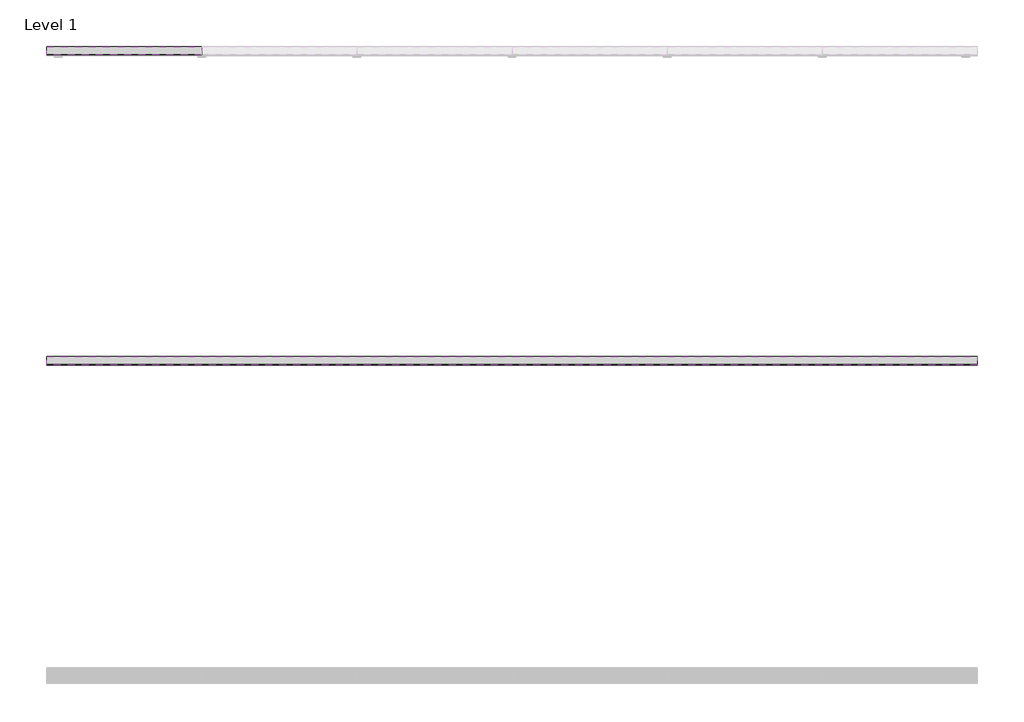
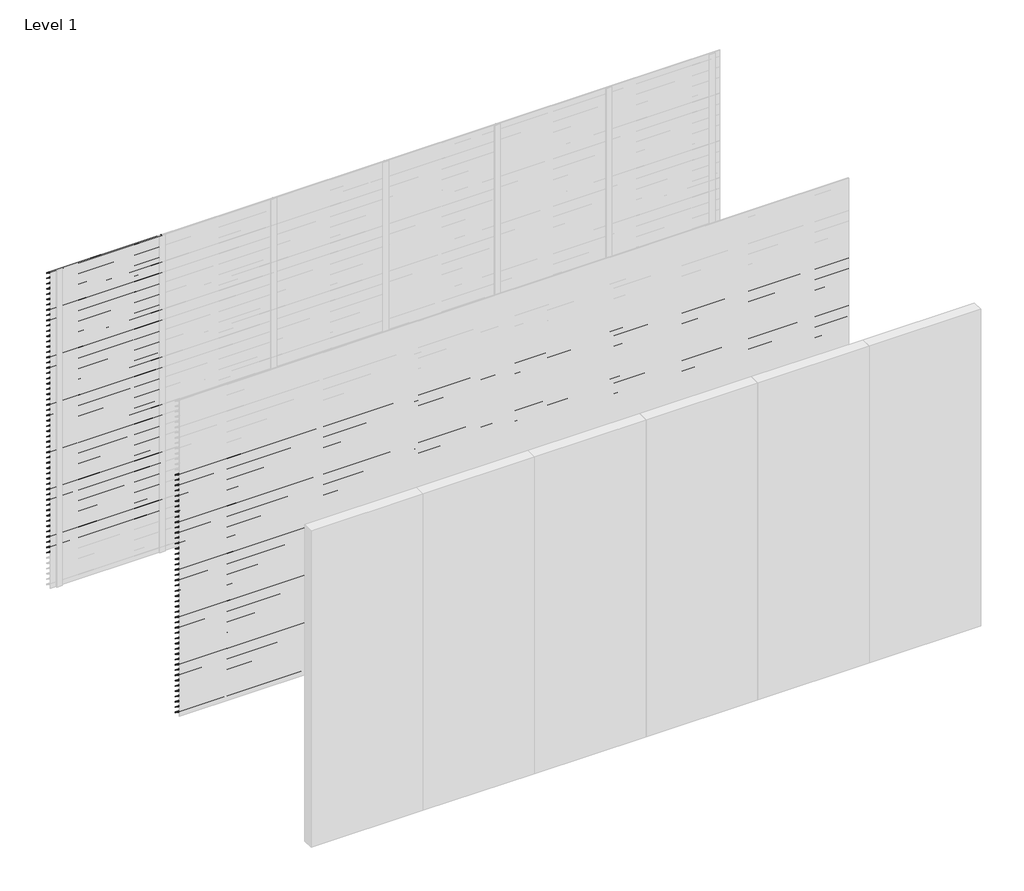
# One storey, part 15 of 18: 100 proxies.
"""IFC4 building model written with IfcOpenShell, lengths in millimetres."""

from ifc_helpers import new_model, si_unit, frame, origin, place, context, project, spatial, polyline, outline, extrude, element, save

model = new_model("IFC4")

# Units and contexts
model_context = context("Model", 3, world=origin())
ifc_project = project(units=[si_unit("LENGTHUNIT", "METRE", prefix="MILLI")], contexts=[model_context])

# Site, building, storey
site = spatial("IfcSite", under=ifc_project)
building = spatial("IfcBuilding", under=site)
storey = spatial("IfcBuildingStorey", under=building, Name="Level 1", Elevation=0.0)

# Proxies
placement = place(None, origin())
element("IfcBuildingElementProxy", 1, Name="Wall Sweeps", at=placement, inside=storey, context=model_context, shape_type="SweptSolid", body=[
    extrude(outline(polyline([(5.0, 3000.0), (5.0, 2991.0744429), (57.0, 2956.0), (57.0, 2950.0), (3.0, 2986.4234599), (3.0, 3000.0), (5.0, 3000.0)])), frame((0.0, 0.0, 0.0), z_axis=(1.0, 0.0, 0.0), x_axis=(0.0, 1.0, 0.0)), (0.0, 0.0, 1.0), 1000.0),
])
element("IfcBuildingElementProxy", 2, Name="Wall Sweeps", at=placement, inside=storey, context=model_context, shape_type="SweptSolid", body=[
    extrude(outline(polyline([(5.0, 2950.0), (5.0, 2941.0744429), (57.0, 2906.0), (57.0, 2900.0), (3.0, 2936.4234599), (3.0, 2950.0), (5.0, 2950.0)])), frame((0.0, 0.0, 0.0), z_axis=(1.0, 0.0, 0.0), x_axis=(0.0, 1.0, 0.0)), (0.0, 0.0, 1.0), 1000.0),
])
element("IfcBuildingElementProxy", 3, Name="Wall Sweeps", at=placement, inside=storey, context=model_context, shape_type="SweptSolid", body=[
    extrude(outline(polyline([(5.0, 2900.0), (5.0, 2891.0744429), (57.0, 2856.0), (57.0, 2850.0), (3.0, 2886.4234599), (3.0, 2900.0), (5.0, 2900.0)])), frame((0.0, 0.0, 0.0), z_axis=(1.0, 0.0, 0.0), x_axis=(0.0, 1.0, 0.0)), (0.0, 0.0, 1.0), 1000.0),
])
element("IfcBuildingElementProxy", 4, Name="Wall Sweeps", at=placement, inside=storey, context=model_context, shape_type="SweptSolid", body=[
    extrude(outline(polyline([(5.0, 2850.0), (5.0, 2841.0744429), (57.0, 2806.0), (57.0, 2800.0), (3.0, 2836.4234599), (3.0, 2850.0), (5.0, 2850.0)])), frame((0.0, 0.0, 0.0), z_axis=(1.0, 0.0, 0.0), x_axis=(0.0, 1.0, 0.0)), (0.0, 0.0, 1.0), 1000.0),
])
element("IfcBuildingElementProxy", 5, Name="Wall Sweeps", at=placement, inside=storey, context=model_context, shape_type="SweptSolid", body=[
    extrude(outline(polyline([(5.0, 2800.0), (5.0, 2791.0744429), (57.0, 2756.0), (57.0, 2750.0), (3.0, 2786.4234599), (3.0, 2800.0), (5.0, 2800.0)])), frame((0.0, 0.0, 0.0), z_axis=(1.0, 0.0, 0.0), x_axis=(0.0, 1.0, 0.0)), (0.0, 0.0, 1.0), 1000.0),
])
element("IfcBuildingElementProxy", 6, Name="Wall Sweeps", at=placement, inside=storey, context=model_context, shape_type="SweptSolid", body=[
    extrude(outline(polyline([(5.0, 2750.0), (5.0, 2741.0744429), (57.0, 2706.0), (57.0, 2700.0), (3.0, 2736.4234599), (3.0, 2750.0), (5.0, 2750.0)])), frame((0.0, 0.0, 0.0), z_axis=(1.0, 0.0, 0.0), x_axis=(0.0, 1.0, 0.0)), (0.0, 0.0, 1.0), 1000.0),
])
element("IfcBuildingElementProxy", 7, Name="Wall Sweeps", at=placement, inside=storey, context=model_context, shape_type="SweptSolid", body=[
    extrude(outline(polyline([(5.0, 2700.0), (5.0, 2691.0744429), (57.0, 2656.0), (57.0, 2650.0), (3.0, 2686.4234599), (3.0, 2700.0), (5.0, 2700.0)])), frame((0.0, 0.0, 0.0), z_axis=(1.0, 0.0, 0.0), x_axis=(0.0, 1.0, 0.0)), (0.0, 0.0, 1.0), 1000.0),
])
element("IfcBuildingElementProxy", 8, Name="Wall Sweeps", at=placement, inside=storey, context=model_context, shape_type="SweptSolid", body=[
    extrude(outline(polyline([(5.0, 2650.0), (5.0, 2641.0744429), (57.0, 2606.0), (57.0, 2600.0), (3.0, 2636.4234599), (3.0, 2650.0), (5.0, 2650.0)])), frame((0.0, 0.0, 0.0), z_axis=(1.0, 0.0, 0.0), x_axis=(0.0, 1.0, 0.0)), (0.0, 0.0, 1.0), 1000.0),
])
element("IfcBuildingElementProxy", 9, Name="Wall Sweeps", at=placement, inside=storey, context=model_context, shape_type="SweptSolid", body=[
    extrude(outline(polyline([(5.0, 2600.0), (5.0, 2591.0744429), (57.0, 2556.0), (57.0, 2550.0), (3.0, 2586.4234599), (3.0, 2600.0), (5.0, 2600.0)])), frame((0.0, 0.0, 0.0), z_axis=(1.0, 0.0, 0.0), x_axis=(0.0, 1.0, 0.0)), (0.0, 0.0, 1.0), 1000.0),
])
element("IfcBuildingElementProxy", 10, Name="Wall Sweeps", at=placement, inside=storey, context=model_context, shape_type="SweptSolid", body=[
    extrude(outline(polyline([(5.0, 2550.0), (5.0, 2541.0744429), (57.0, 2506.0), (57.0, 2500.0), (3.0, 2536.4234599), (3.0, 2550.0), (5.0, 2550.0)])), frame((0.0, 0.0, 0.0), z_axis=(1.0, 0.0, 0.0), x_axis=(0.0, 1.0, 0.0)), (0.0, 0.0, 1.0), 1000.0),
])
element("IfcBuildingElementProxy", 11, Name="Wall Sweeps", at=placement, inside=storey, context=model_context, shape_type="SweptSolid", body=[
    extrude(outline(polyline([(5.0, 2500.0), (5.0, 2491.0744429), (57.0, 2456.0), (57.0, 2450.0), (3.0, 2486.4234599), (3.0, 2500.0), (5.0, 2500.0)])), frame((0.0, 0.0, 0.0), z_axis=(1.0, 0.0, 0.0), x_axis=(0.0, 1.0, 0.0)), (0.0, 0.0, 1.0), 1000.0),
])
element("IfcBuildingElementProxy", 12, Name="Wall Sweeps", at=placement, inside=storey, context=model_context, shape_type="SweptSolid", body=[
    extrude(outline(polyline([(5.0, 2450.0), (5.0, 2441.0744429), (57.0, 2406.0), (57.0, 2400.0), (3.0, 2436.4234599), (3.0, 2450.0), (5.0, 2450.0)])), frame((0.0, 0.0, 0.0), z_axis=(1.0, 0.0, 0.0), x_axis=(0.0, 1.0, 0.0)), (0.0, 0.0, 1.0), 1000.0),
])
element("IfcBuildingElementProxy", 13, Name="Wall Sweeps", at=placement, inside=storey, context=model_context, shape_type="SweptSolid", body=[
    extrude(outline(polyline([(5.0, 2400.0), (5.0, 2391.0744429), (57.0, 2356.0), (57.0, 2350.0), (3.0, 2386.4234599), (3.0, 2400.0), (5.0, 2400.0)])), frame((0.0, 0.0, 0.0), z_axis=(1.0, 0.0, 0.0), x_axis=(0.0, 1.0, 0.0)), (0.0, 0.0, 1.0), 1000.0),
])
element("IfcBuildingElementProxy", 14, Name="Wall Sweeps", at=placement, inside=storey, context=model_context, shape_type="SweptSolid", body=[
    extrude(outline(polyline([(5.0, 2350.0), (5.0, 2341.0744429), (57.0, 2306.0), (57.0, 2300.0), (3.0, 2336.4234599), (3.0, 2350.0), (5.0, 2350.0)])), frame((0.0, 0.0, 0.0), z_axis=(1.0, 0.0, 0.0), x_axis=(0.0, 1.0, 0.0)), (0.0, 0.0, 1.0), 1000.0),
])
element("IfcBuildingElementProxy", 15, Name="Wall Sweeps", at=placement, inside=storey, context=model_context, shape_type="SweptSolid", body=[
    extrude(outline(polyline([(5.0, 2300.0), (5.0, 2291.0744429), (57.0, 2256.0), (57.0, 2250.0), (3.0, 2286.4234599), (3.0, 2300.0), (5.0, 2300.0)])), frame((0.0, 0.0, 0.0), z_axis=(1.0, 0.0, 0.0), x_axis=(0.0, 1.0, 0.0)), (0.0, 0.0, 1.0), 1000.0),
])
element("IfcBuildingElementProxy", 16, Name="Wall Sweeps", at=placement, inside=storey, context=model_context, shape_type="SweptSolid", body=[
    extrude(outline(polyline([(5.0, 2250.0), (5.0, 2241.0744429), (57.0, 2206.0), (57.0, 2200.0), (3.0, 2236.4234599), (3.0, 2250.0), (5.0, 2250.0)])), frame((0.0, 0.0, 0.0), z_axis=(1.0, 0.0, 0.0), x_axis=(0.0, 1.0, 0.0)), (0.0, 0.0, 1.0), 1000.0),
])
element("IfcBuildingElementProxy", 17, Name="Wall Sweeps", at=placement, inside=storey, context=model_context, shape_type="SweptSolid", body=[
    extrude(outline(polyline([(5.0, 2200.0), (5.0, 2191.0744429), (57.0, 2156.0), (57.0, 2150.0), (3.0, 2186.4234599), (3.0, 2200.0), (5.0, 2200.0)])), frame((0.0, 0.0, 0.0), z_axis=(1.0, 0.0, 0.0), x_axis=(0.0, 1.0, 0.0)), (0.0, 0.0, 1.0), 1000.0),
])
element("IfcBuildingElementProxy", 18, Name="Wall Sweeps", at=placement, inside=storey, context=model_context, shape_type="SweptSolid", body=[
    extrude(outline(polyline([(5.0, 2150.0), (5.0, 2141.0744429), (57.0, 2106.0), (57.0, 2100.0), (3.0, 2136.4234599), (3.0, 2150.0), (5.0, 2150.0)])), frame((0.0, 0.0, 0.0), z_axis=(1.0, 0.0, 0.0), x_axis=(0.0, 1.0, 0.0)), (0.0, 0.0, 1.0), 1000.0),
])
element("IfcBuildingElementProxy", 19, Name="Wall Sweeps", at=placement, inside=storey, context=model_context, shape_type="SweptSolid", body=[
    extrude(outline(polyline([(5.0, 2100.0), (5.0, 2091.0744429), (57.0, 2056.0), (57.0, 2050.0), (3.0, 2086.4234599), (3.0, 2100.0), (5.0, 2100.0)])), frame((0.0, 0.0, 0.0), z_axis=(1.0, 0.0, 0.0), x_axis=(0.0, 1.0, 0.0)), (0.0, 0.0, 1.0), 1000.0),
])
element("IfcBuildingElementProxy", 20, Name="Wall Sweeps", at=placement, inside=storey, context=model_context, shape_type="SweptSolid", body=[
    extrude(outline(polyline([(5.0, 2050.0), (5.0, 2041.0744429), (57.0, 2006.0), (57.0, 2000.0), (3.0, 2036.4234599), (3.0, 2050.0), (5.0, 2050.0)])), frame((0.0, 0.0, 0.0), z_axis=(1.0, 0.0, 0.0), x_axis=(0.0, 1.0, 0.0)), (0.0, 0.0, 1.0), 1000.0),
])
element("IfcBuildingElementProxy", 21, Name="Wall Sweeps", at=placement, inside=storey, context=model_context, shape_type="SweptSolid", body=[
    extrude(outline(polyline([(5.0, 2000.0), (5.0, 1991.0744429), (57.0, 1956.0), (57.0, 1950.0), (3.0, 1986.4234599), (3.0, 2000.0), (5.0, 2000.0)])), frame((0.0, 0.0, 0.0), z_axis=(1.0, 0.0, 0.0), x_axis=(0.0, 1.0, 0.0)), (0.0, 0.0, 1.0), 1000.0),
])
element("IfcBuildingElementProxy", 22, Name="Wall Sweeps", at=placement, inside=storey, context=model_context, shape_type="SweptSolid", body=[
    extrude(outline(polyline([(5.0, 1950.0), (5.0, 1941.0744429), (57.0, 1906.0), (57.0, 1900.0), (3.0, 1936.4234599), (3.0, 1950.0), (5.0, 1950.0)])), frame((0.0, 0.0, 0.0), z_axis=(1.0, 0.0, 0.0), x_axis=(0.0, 1.0, 0.0)), (0.0, 0.0, 1.0), 1000.0),
])
element("IfcBuildingElementProxy", 23, Name="Wall Sweeps", at=placement, inside=storey, context=model_context, shape_type="SweptSolid", body=[
    extrude(outline(polyline([(5.0, 1900.0), (5.0, 1891.0744429), (57.0, 1856.0), (57.0, 1850.0), (3.0, 1886.4234599), (3.0, 1900.0), (5.0, 1900.0)])), frame((0.0, 0.0, 0.0), z_axis=(1.0, 0.0, 0.0), x_axis=(0.0, 1.0, 0.0)), (0.0, 0.0, 1.0), 1000.0),
])
element("IfcBuildingElementProxy", 24, Name="Wall Sweeps", at=placement, inside=storey, context=model_context, shape_type="SweptSolid", body=[
    extrude(outline(polyline([(5.0, 1850.0), (5.0, 1841.0744429), (57.0, 1806.0), (57.0, 1800.0), (3.0, 1836.4234599), (3.0, 1850.0), (5.0, 1850.0)])), frame((0.0, 0.0, 0.0), z_axis=(1.0, 0.0, 0.0), x_axis=(0.0, 1.0, 0.0)), (0.0, 0.0, 1.0), 1000.0),
])
element("IfcBuildingElementProxy", 25, Name="Wall Sweeps", at=placement, inside=storey, context=model_context, shape_type="SweptSolid", body=[
    extrude(outline(polyline([(5.0, 1800.0), (5.0, 1791.0744429), (57.0, 1756.0), (57.0, 1750.0), (3.0, 1786.4234599), (3.0, 1800.0), (5.0, 1800.0)])), frame((0.0, 0.0, 0.0), z_axis=(1.0, 0.0, 0.0), x_axis=(0.0, 1.0, 0.0)), (0.0, 0.0, 1.0), 1000.0),
])
element("IfcBuildingElementProxy", 26, Name="Wall Sweeps", at=placement, inside=storey, context=model_context, shape_type="SweptSolid", body=[
    extrude(outline(polyline([(5.0, 1750.0), (5.0, 1741.0744429), (57.0, 1706.0), (57.0, 1700.0), (3.0, 1736.4234599), (3.0, 1750.0), (5.0, 1750.0)])), frame((0.0, 0.0, 0.0), z_axis=(1.0, 0.0, 0.0), x_axis=(0.0, 1.0, 0.0)), (0.0, 0.0, 1.0), 1000.0),
])
element("IfcBuildingElementProxy", 27, Name="Wall Sweeps", at=placement, inside=storey, context=model_context, shape_type="SweptSolid", body=[
    extrude(outline(polyline([(5.0, 1700.0), (5.0, 1691.0744429), (57.0, 1656.0), (57.0, 1650.0), (3.0, 1686.4234599), (3.0, 1700.0), (5.0, 1700.0)])), frame((0.0, 0.0, 0.0), z_axis=(1.0, 0.0, 0.0), x_axis=(0.0, 1.0, 0.0)), (0.0, 0.0, 1.0), 1000.0),
])
element("IfcBuildingElementProxy", 28, Name="Wall Sweeps", at=placement, inside=storey, context=model_context, shape_type="SweptSolid", body=[
    extrude(outline(polyline([(5.0, 1650.0), (5.0, 1641.0744429), (57.0, 1606.0), (57.0, 1600.0), (3.0, 1636.4234599), (3.0, 1650.0), (5.0, 1650.0)])), frame((0.0, 0.0, 0.0), z_axis=(1.0, 0.0, 0.0), x_axis=(0.0, 1.0, 0.0)), (0.0, 0.0, 1.0), 1000.0),
])
element("IfcBuildingElementProxy", 29, Name="Wall Sweeps", at=placement, inside=storey, context=model_context, shape_type="SweptSolid", body=[
    extrude(outline(polyline([(5.0, 1600.0), (5.0, 1591.0744429), (57.0, 1556.0), (57.0, 1550.0), (3.0, 1586.4234599), (3.0, 1600.0), (5.0, 1600.0)])), frame((0.0, 0.0, 0.0), z_axis=(1.0, 0.0, 0.0), x_axis=(0.0, 1.0, 0.0)), (0.0, 0.0, 1.0), 1000.0),
])
element("IfcBuildingElementProxy", 30, Name="Wall Sweeps", at=placement, inside=storey, context=model_context, shape_type="SweptSolid", body=[
    extrude(outline(polyline([(5.0, 1550.0), (5.0, 1541.0744429), (57.0, 1506.0), (57.0, 1500.0), (3.0, 1536.4234599), (3.0, 1550.0), (5.0, 1550.0)])), frame((0.0, 0.0, 0.0), z_axis=(1.0, 0.0, 0.0), x_axis=(0.0, 1.0, 0.0)), (0.0, 0.0, 1.0), 1000.0),
])
element("IfcBuildingElementProxy", 31, Name="Wall Sweeps", at=placement, inside=storey, context=model_context, shape_type="SweptSolid", body=[
    extrude(outline(polyline([(5.0, 1500.0), (5.0, 1491.0744429), (57.0, 1456.0), (57.0, 1450.0), (3.0, 1486.4234599), (3.0, 1500.0), (5.0, 1500.0)])), frame((0.0, 0.0, 0.0), z_axis=(1.0, 0.0, 0.0), x_axis=(0.0, 1.0, 0.0)), (0.0, 0.0, 1.0), 1000.0),
])
element("IfcBuildingElementProxy", 32, Name="Wall Sweeps", at=placement, inside=storey, context=model_context, shape_type="SweptSolid", body=[
    extrude(outline(polyline([(5.0, 1450.0), (5.0, 1441.0744429), (57.0, 1406.0), (57.0, 1400.0), (3.0, 1436.4234599), (3.0, 1450.0), (5.0, 1450.0)])), frame((0.0, 0.0, 0.0), z_axis=(1.0, 0.0, 0.0), x_axis=(0.0, 1.0, 0.0)), (0.0, 0.0, 1.0), 1000.0),
])
element("IfcBuildingElementProxy", 33, Name="Wall Sweeps", at=placement, inside=storey, context=model_context, shape_type="SweptSolid", body=[
    extrude(outline(polyline([(5.0, 1400.0), (5.0, 1391.0744429), (57.0, 1356.0), (57.0, 1350.0), (3.0, 1386.4234599), (3.0, 1400.0), (5.0, 1400.0)])), frame((0.0, 0.0, 0.0), z_axis=(1.0, 0.0, 0.0), x_axis=(0.0, 1.0, 0.0)), (0.0, 0.0, 1.0), 1000.0),
])
element("IfcBuildingElementProxy", 34, Name="Wall Sweeps", at=placement, inside=storey, context=model_context, shape_type="SweptSolid", body=[
    extrude(outline(polyline([(5.0, 1350.0), (5.0, 1341.0744429), (57.0, 1306.0), (57.0, 1300.0), (3.0, 1336.4234599), (3.0, 1350.0), (5.0, 1350.0)])), frame((0.0, 0.0, 0.0), z_axis=(1.0, 0.0, 0.0), x_axis=(0.0, 1.0, 0.0)), (0.0, 0.0, 1.0), 1000.0),
])
element("IfcBuildingElementProxy", 35, Name="Wall Sweeps", at=placement, inside=storey, context=model_context, shape_type="SweptSolid", body=[
    extrude(outline(polyline([(5.0, 1300.0), (5.0, 1291.0744429), (57.0, 1256.0), (57.0, 1250.0), (3.0, 1286.4234599), (3.0, 1300.0), (5.0, 1300.0)])), frame((0.0, 0.0, 0.0), z_axis=(1.0, 0.0, 0.0), x_axis=(0.0, 1.0, 0.0)), (0.0, 0.0, 1.0), 1000.0),
])
element("IfcBuildingElementProxy", 36, Name="Wall Sweeps", at=placement, inside=storey, context=model_context, shape_type="SweptSolid", body=[
    extrude(outline(polyline([(5.0, 1250.0), (5.0, 1241.0744429), (57.0, 1206.0), (57.0, 1200.0), (3.0, 1236.4234599), (3.0, 1250.0), (5.0, 1250.0)])), frame((0.0, 0.0, 0.0), z_axis=(1.0, 0.0, 0.0), x_axis=(0.0, 1.0, 0.0)), (0.0, 0.0, 1.0), 1000.0),
])
element("IfcBuildingElementProxy", 37, Name="Wall Sweeps", at=placement, inside=storey, context=model_context, shape_type="SweptSolid", body=[
    extrude(outline(polyline([(5.0, 1200.0), (5.0, 1191.0744429), (57.0, 1156.0), (57.0, 1150.0), (3.0, 1186.4234599), (3.0, 1200.0), (5.0, 1200.0)])), frame((0.0, 0.0, 0.0), z_axis=(1.0, 0.0, 0.0), x_axis=(0.0, 1.0, 0.0)), (0.0, 0.0, 1.0), 1000.0),
])
element("IfcBuildingElementProxy", 38, Name="Wall Sweeps", at=placement, inside=storey, context=model_context, shape_type="SweptSolid", body=[
    extrude(outline(polyline([(5.0, 1150.0), (5.0, 1141.0744429), (57.0, 1106.0), (57.0, 1100.0), (3.0, 1136.4234599), (3.0, 1150.0), (5.0, 1150.0)])), frame((0.0, 0.0, 0.0), z_axis=(1.0, 0.0, 0.0), x_axis=(0.0, 1.0, 0.0)), (0.0, 0.0, 1.0), 1000.0),
])
element("IfcBuildingElementProxy", 39, Name="Wall Sweeps", at=placement, inside=storey, context=model_context, shape_type="SweptSolid", body=[
    extrude(outline(polyline([(5.0, 1100.0), (5.0, 1091.0744429), (57.0, 1056.0), (57.0, 1050.0), (3.0, 1086.4234599), (3.0, 1100.0), (5.0, 1100.0)])), frame((0.0, 0.0, 0.0), z_axis=(1.0, 0.0, 0.0), x_axis=(0.0, 1.0, 0.0)), (0.0, 0.0, 1.0), 1000.0),
])
element("IfcBuildingElementProxy", 40, Name="Wall Sweeps", at=placement, inside=storey, context=model_context, shape_type="SweptSolid", body=[
    extrude(outline(polyline([(5.0, 1050.0), (5.0, 1041.0744429), (57.0, 1006.0), (57.0, 1000.0), (3.0, 1036.4234599), (3.0, 1050.0), (5.0, 1050.0)])), frame((0.0, 0.0, 0.0), z_axis=(1.0, 0.0, 0.0), x_axis=(0.0, 1.0, 0.0)), (0.0, 0.0, 1.0), 1000.0),
])
element("IfcBuildingElementProxy", 41, Name="Wall Sweeps", at=placement, inside=storey, context=model_context, shape_type="SweptSolid", body=[
    extrude(outline(polyline([(5.0, 1000.0), (5.0, 991.0744429), (57.0, 956.0), (57.0, 950.0), (3.0, 986.4234599), (3.0, 1000.0), (5.0, 1000.0)])), frame((0.0, 0.0, 0.0), z_axis=(1.0, 0.0, 0.0), x_axis=(0.0, 1.0, 0.0)), (0.0, 0.0, 1.0), 1000.0),
])
element("IfcBuildingElementProxy", 42, Name="Wall Sweeps", at=placement, inside=storey, context=model_context, shape_type="SweptSolid", body=[
    extrude(outline(polyline([(5.0, 950.0), (5.0, 941.0744429), (57.0, 906.0), (57.0, 900.0), (3.0, 936.4234599), (3.0, 950.0), (5.0, 950.0)])), frame((0.0, 0.0, 0.0), z_axis=(1.0, 0.0, 0.0), x_axis=(0.0, 1.0, 0.0)), (0.0, 0.0, 1.0), 1000.0),
])
element("IfcBuildingElementProxy", 43, Name="Wall Sweeps", at=placement, inside=storey, context=model_context, shape_type="SweptSolid", body=[
    extrude(outline(polyline([(5.0, 900.0), (5.0, 891.0744429), (57.0, 856.0), (57.0, 850.0), (3.0, 886.4234599), (3.0, 900.0), (5.0, 900.0)])), frame((0.0, 0.0, 0.0), z_axis=(1.0, 0.0, 0.0), x_axis=(0.0, 1.0, 0.0)), (0.0, 0.0, 1.0), 1000.0),
])
element("IfcBuildingElementProxy", 44, Name="Wall Sweeps", at=placement, inside=storey, context=model_context, shape_type="SweptSolid", body=[
    extrude(outline(polyline([(5.0, 850.0), (5.0, 841.0744429), (57.0, 806.0), (57.0, 800.0), (3.0, 836.4234599), (3.0, 850.0), (5.0, 850.0)])), frame((0.0, 0.0, 0.0), z_axis=(1.0, 0.0, 0.0), x_axis=(0.0, 1.0, 0.0)), (0.0, 0.0, 1.0), 1000.0),
])
element("IfcBuildingElementProxy", 45, Name="Wall Sweeps", at=placement, inside=storey, context=model_context, shape_type="SweptSolid", body=[
    extrude(outline(polyline([(5.0, 800.0), (5.0, 791.0744429), (57.0, 756.0), (57.0, 750.0), (3.0, 786.4234599), (3.0, 800.0), (5.0, 800.0)])), frame((0.0, 0.0, 0.0), z_axis=(1.0, 0.0, 0.0), x_axis=(0.0, 1.0, 0.0)), (0.0, 0.0, 1.0), 1000.0),
])
element("IfcBuildingElementProxy", 46, Name="Wall Sweeps", at=placement, inside=storey, context=model_context, shape_type="SweptSolid", body=[
    extrude(outline(polyline([(5.0, 750.0), (5.0, 741.0744429), (57.0, 706.0), (57.0, 700.0), (3.0, 736.4234599), (3.0, 750.0), (5.0, 750.0)])), frame((0.0, 0.0, 0.0), z_axis=(1.0, 0.0, 0.0), x_axis=(0.0, 1.0, 0.0)), (0.0, 0.0, 1.0), 1000.0),
])
element("IfcBuildingElementProxy", 47, Name="Wall Sweeps", at=placement, inside=storey, context=model_context, shape_type="SweptSolid", body=[
    extrude(outline(polyline([(5.0, 700.0), (5.0, 691.0744429), (57.0, 656.0), (57.0, 650.0), (3.0, 686.4234599), (3.0, 700.0), (5.0, 700.0)])), frame((0.0, 0.0, 0.0), z_axis=(1.0, 0.0, 0.0), x_axis=(0.0, 1.0, 0.0)), (0.0, 0.0, 1.0), 1000.0),
])
element("IfcBuildingElementProxy", 48, Name="Wall Sweeps", at=placement, inside=storey, context=model_context, shape_type="SweptSolid", body=[
    extrude(outline(polyline([(5.0, 650.0), (5.0, 641.0744429), (57.0, 606.0), (57.0, 600.0), (3.0, 636.4234599), (3.0, 650.0), (5.0, 650.0)])), frame((0.0, 0.0, 0.0), z_axis=(1.0, 0.0, 0.0), x_axis=(0.0, 1.0, 0.0)), (0.0, 0.0, 1.0), 1000.0),
])
element("IfcBuildingElementProxy", 49, Name="Wall Sweeps", at=placement, inside=storey, context=model_context, shape_type="SweptSolid", body=[
    extrude(outline(polyline([(5.0, 600.0), (5.0, 591.0744429), (57.0, 556.0), (57.0, 550.0), (3.0, 586.4234599), (3.0, 600.0), (5.0, 600.0)])), frame((0.0, 0.0, 0.0), z_axis=(1.0, 0.0, 0.0), x_axis=(0.0, 1.0, 0.0)), (0.0, 0.0, 1.0), 1000.0),
])
element("IfcBuildingElementProxy", 50, Name="Wall Sweeps", at=placement, inside=storey, context=model_context, shape_type="SweptSolid", body=[
    extrude(outline(polyline([(5.0, 550.0), (5.0, 541.0744429), (57.0, 506.0), (57.0, 500.0), (3.0, 536.4234599), (3.0, 550.0), (5.0, 550.0)])), frame((0.0, 0.0, 0.0), z_axis=(1.0, 0.0, 0.0), x_axis=(0.0, 1.0, 0.0)), (0.0, 0.0, 1.0), 1000.0),
])
element("IfcBuildingElementProxy", 51, Name="Wall Sweeps", at=placement, inside=storey, context=model_context, shape_type="SweptSolid", body=[
    extrude(outline(polyline([(5.0, 500.0), (5.0, 491.0744429), (57.0, 456.0), (57.0, 450.0), (3.0, 486.4234599), (3.0, 500.0), (5.0, 500.0)])), frame((0.0, 0.0, 0.0), z_axis=(1.0, 0.0, 0.0), x_axis=(0.0, 1.0, 0.0)), (0.0, 0.0, 1.0), 1000.0),
])
element("IfcBuildingElementProxy", 52, Name="Wall Sweeps", at=placement, inside=storey, context=model_context, shape_type="SweptSolid", body=[
    extrude(outline(polyline([(5.0, 450.0), (5.0, 441.0744429), (57.0, 406.0), (57.0, 400.0), (3.0, 436.4234599), (3.0, 450.0), (5.0, 450.0)])), frame((0.0, 0.0, 0.0), z_axis=(1.0, 0.0, 0.0), x_axis=(0.0, 1.0, 0.0)), (0.0, 0.0, 1.0), 1000.0),
])
element("IfcBuildingElementProxy", 53, Name="Wall Sweeps", at=placement, inside=storey, context=model_context, shape_type="SweptSolid", body=[
    extrude(outline(polyline([(5.0, 400.0), (5.0, 391.0744429), (57.0, 356.0), (57.0, 350.0), (3.0, 386.4234599), (3.0, 400.0), (5.0, 400.0)])), frame((0.0, 0.0, 0.0), z_axis=(1.0, 0.0, 0.0), x_axis=(0.0, 1.0, 0.0)), (0.0, 0.0, 1.0), 1000.0),
])
element("IfcBuildingElementProxy", 54, Name="Wall Sweeps", at=placement, inside=storey, context=model_context, shape_type="SweptSolid", body=[
    extrude(outline(polyline([(5.0, 350.0), (5.0, 341.0744429), (57.0, 306.0), (57.0, 300.0), (3.0, 336.4234599), (3.0, 350.0), (5.0, 350.0)])), frame((0.0, 0.0, 0.0), z_axis=(1.0, 0.0, 0.0), x_axis=(0.0, 1.0, 0.0)), (0.0, 0.0, 1.0), 1000.0),
])
element("IfcBuildingElementProxy", 55, Name="Wall Sweeps", at=placement, inside=storey, context=model_context, shape_type="SweptSolid", body=[
    extrude(outline(polyline([(-1995.0, 2300.0), (-1995.0, 2291.0744429), (-1943.0, 2256.0), (-1943.0, 2250.0), (-1997.0, 2286.4234599), (-1997.0, 2300.0), (-1995.0, 2300.0)])), frame((0.0, 0.0, 0.0), z_axis=(1.0, 0.0, 0.0), x_axis=(0.0, 1.0, 0.0)), (0.0, 0.0, 1.0), 6000.0),
])
element("IfcBuildingElementProxy", 56, Name="Wall Sweeps", at=placement, inside=storey, context=model_context, shape_type="SweptSolid", body=[
    extrude(outline(polyline([(-1995.0, 2250.0), (-1995.0, 2241.0744429), (-1943.0, 2206.0), (-1943.0, 2200.0), (-1997.0, 2236.4234599), (-1997.0, 2250.0), (-1995.0, 2250.0)])), frame((0.0, 0.0, 0.0), z_axis=(1.0, 0.0, 0.0), x_axis=(0.0, 1.0, 0.0)), (0.0, 0.0, 1.0), 6000.0),
])
element("IfcBuildingElementProxy", 57, Name="Wall Sweeps", at=placement, inside=storey, context=model_context, shape_type="SweptSolid", body=[
    extrude(outline(polyline([(-1995.0, 2200.0), (-1995.0, 2191.0744429), (-1943.0, 2156.0), (-1943.0, 2150.0), (-1997.0, 2186.4234599), (-1997.0, 2200.0), (-1995.0, 2200.0)])), frame((0.0, 0.0, 0.0), z_axis=(1.0, 0.0, 0.0), x_axis=(0.0, 1.0, 0.0)), (0.0, 0.0, 1.0), 6000.0),
])
element("IfcBuildingElementProxy", 58, Name="Wall Sweeps", at=placement, inside=storey, context=model_context, shape_type="SweptSolid", body=[
    extrude(outline(polyline([(-1995.0, 2150.0), (-1995.0, 2141.0744429), (-1943.0, 2106.0), (-1943.0, 2100.0), (-1997.0, 2136.4234599), (-1997.0, 2150.0), (-1995.0, 2150.0)])), frame((0.0, 0.0, 0.0), z_axis=(1.0, 0.0, 0.0), x_axis=(0.0, 1.0, 0.0)), (0.0, 0.0, 1.0), 6000.0),
])
element("IfcBuildingElementProxy", 59, Name="Wall Sweeps", at=placement, inside=storey, context=model_context, shape_type="SweptSolid", body=[
    extrude(outline(polyline([(-1995.0, 2100.0), (-1995.0, 2091.0744429), (-1943.0, 2056.0), (-1943.0, 2050.0), (-1997.0, 2086.4234599), (-1997.0, 2100.0), (-1995.0, 2100.0)])), frame((0.0, 0.0, 0.0), z_axis=(1.0, 0.0, 0.0), x_axis=(0.0, 1.0, 0.0)), (0.0, 0.0, 1.0), 6000.0),
])
element("IfcBuildingElementProxy", 60, Name="Wall Sweeps", at=placement, inside=storey, context=model_context, shape_type="SweptSolid", body=[
    extrude(outline(polyline([(-1995.0, 2050.0), (-1995.0, 2041.0744429), (-1943.0, 2006.0), (-1943.0, 2000.0), (-1997.0, 2036.4234599), (-1997.0, 2050.0), (-1995.0, 2050.0)])), frame((0.0, 0.0, 0.0), z_axis=(1.0, 0.0, 0.0), x_axis=(0.0, 1.0, 0.0)), (0.0, 0.0, 1.0), 6000.0),
])
element("IfcBuildingElementProxy", 61, Name="Wall Sweeps", at=placement, inside=storey, context=model_context, shape_type="SweptSolid", body=[
    extrude(outline(polyline([(-1995.0, 2000.0), (-1995.0, 1991.0744429), (-1943.0, 1956.0), (-1943.0, 1950.0), (-1997.0, 1986.4234599), (-1997.0, 2000.0), (-1995.0, 2000.0)])), frame((0.0, 0.0, 0.0), z_axis=(1.0, 0.0, 0.0), x_axis=(0.0, 1.0, 0.0)), (0.0, 0.0, 1.0), 6000.0),
])
element("IfcBuildingElementProxy", 62, Name="Wall Sweeps", at=placement, inside=storey, context=model_context, shape_type="SweptSolid", body=[
    extrude(outline(polyline([(-1995.0, 1950.0), (-1995.0, 1941.0744429), (-1943.0, 1906.0), (-1943.0, 1900.0), (-1997.0, 1936.4234599), (-1997.0, 1950.0), (-1995.0, 1950.0)])), frame((0.0, 0.0, 0.0), z_axis=(1.0, 0.0, 0.0), x_axis=(0.0, 1.0, 0.0)), (0.0, 0.0, 1.0), 6000.0),
])
element("IfcBuildingElementProxy", 63, Name="Wall Sweeps", at=placement, inside=storey, context=model_context, shape_type="SweptSolid", body=[
    extrude(outline(polyline([(-1995.0, 1900.0), (-1995.0, 1891.0744429), (-1943.0, 1856.0), (-1943.0, 1850.0), (-1997.0, 1886.4234599), (-1997.0, 1900.0), (-1995.0, 1900.0)])), frame((0.0, 0.0, 0.0), z_axis=(1.0, 0.0, 0.0), x_axis=(0.0, 1.0, 0.0)), (0.0, 0.0, 1.0), 6000.0),
])
element("IfcBuildingElementProxy", 64, Name="Wall Sweeps", at=placement, inside=storey, context=model_context, shape_type="SweptSolid", body=[
    extrude(outline(polyline([(-1995.0, 1850.0), (-1995.0, 1841.0744429), (-1943.0, 1806.0), (-1943.0, 1800.0), (-1997.0, 1836.4234599), (-1997.0, 1850.0), (-1995.0, 1850.0)])), frame((0.0, 0.0, 0.0), z_axis=(1.0, 0.0, 0.0), x_axis=(0.0, 1.0, 0.0)), (0.0, 0.0, 1.0), 6000.0),
])
element("IfcBuildingElementProxy", 65, Name="Wall Sweeps", at=placement, inside=storey, context=model_context, shape_type="SweptSolid", body=[
    extrude(outline(polyline([(-1995.0, 1800.0), (-1995.0, 1791.0744429), (-1943.0, 1756.0), (-1943.0, 1750.0), (-1997.0, 1786.4234599), (-1997.0, 1800.0), (-1995.0, 1800.0)])), frame((0.0, 0.0, 0.0), z_axis=(1.0, 0.0, 0.0), x_axis=(0.0, 1.0, 0.0)), (0.0, 0.0, 1.0), 6000.0),
])
element("IfcBuildingElementProxy", 66, Name="Wall Sweeps", at=placement, inside=storey, context=model_context, shape_type="SweptSolid", body=[
    extrude(outline(polyline([(-1995.0, 1750.0), (-1995.0, 1741.0744429), (-1943.0, 1706.0), (-1943.0, 1700.0), (-1997.0, 1736.4234599), (-1997.0, 1750.0), (-1995.0, 1750.0)])), frame((0.0, 0.0, 0.0), z_axis=(1.0, 0.0, 0.0), x_axis=(0.0, 1.0, 0.0)), (0.0, 0.0, 1.0), 6000.0),
])
element("IfcBuildingElementProxy", 67, Name="Wall Sweeps", at=placement, inside=storey, context=model_context, shape_type="SweptSolid", body=[
    extrude(outline(polyline([(-1995.0, 1700.0), (-1995.0, 1691.0744429), (-1943.0, 1656.0), (-1943.0, 1650.0), (-1997.0, 1686.4234599), (-1997.0, 1700.0), (-1995.0, 1700.0)])), frame((0.0, 0.0, 0.0), z_axis=(1.0, 0.0, 0.0), x_axis=(0.0, 1.0, 0.0)), (0.0, 0.0, 1.0), 6000.0),
])
element("IfcBuildingElementProxy", 68, Name="Wall Sweeps", at=placement, inside=storey, context=model_context, shape_type="SweptSolid", body=[
    extrude(outline(polyline([(-1995.0, 1650.0), (-1995.0, 1641.0744429), (-1943.0, 1606.0), (-1943.0, 1600.0), (-1997.0, 1636.4234599), (-1997.0, 1650.0), (-1995.0, 1650.0)])), frame((0.0, 0.0, 0.0), z_axis=(1.0, 0.0, 0.0), x_axis=(0.0, 1.0, 0.0)), (0.0, 0.0, 1.0), 6000.0),
])
element("IfcBuildingElementProxy", 69, Name="Wall Sweeps", at=placement, inside=storey, context=model_context, shape_type="SweptSolid", body=[
    extrude(outline(polyline([(-1995.0, 1600.0), (-1995.0, 1591.0744429), (-1943.0, 1556.0), (-1943.0, 1550.0), (-1997.0, 1586.4234599), (-1997.0, 1600.0), (-1995.0, 1600.0)])), frame((0.0, 0.0, 0.0), z_axis=(1.0, 0.0, 0.0), x_axis=(0.0, 1.0, 0.0)), (0.0, 0.0, 1.0), 6000.0),
])
element("IfcBuildingElementProxy", 70, Name="Wall Sweeps", at=placement, inside=storey, context=model_context, shape_type="SweptSolid", body=[
    extrude(outline(polyline([(-1995.0, 1550.0), (-1995.0, 1541.0744429), (-1943.0, 1506.0), (-1943.0, 1500.0), (-1997.0, 1536.4234599), (-1997.0, 1550.0), (-1995.0, 1550.0)])), frame((0.0, 0.0, 0.0), z_axis=(1.0, 0.0, 0.0), x_axis=(0.0, 1.0, 0.0)), (0.0, 0.0, 1.0), 6000.0),
])
element("IfcBuildingElementProxy", 71, Name="Wall Sweeps", at=placement, inside=storey, context=model_context, shape_type="SweptSolid", body=[
    extrude(outline(polyline([(-1995.0, 1500.0), (-1995.0, 1491.0744429), (-1943.0, 1456.0), (-1943.0, 1450.0), (-1997.0, 1486.4234599), (-1997.0, 1500.0), (-1995.0, 1500.0)])), frame((0.0, 0.0, 0.0), z_axis=(1.0, 0.0, 0.0), x_axis=(0.0, 1.0, 0.0)), (0.0, 0.0, 1.0), 6000.0),
])
element("IfcBuildingElementProxy", 72, Name="Wall Sweeps", at=placement, inside=storey, context=model_context, shape_type="SweptSolid", body=[
    extrude(outline(polyline([(-1995.0, 1450.0), (-1995.0, 1441.0744429), (-1943.0, 1406.0), (-1943.0, 1400.0), (-1997.0, 1436.4234599), (-1997.0, 1450.0), (-1995.0, 1450.0)])), frame((0.0, 0.0, 0.0), z_axis=(1.0, 0.0, 0.0), x_axis=(0.0, 1.0, 0.0)), (0.0, 0.0, 1.0), 6000.0),
])
element("IfcBuildingElementProxy", 73, Name="Wall Sweeps", at=placement, inside=storey, context=model_context, shape_type="SweptSolid", body=[
    extrude(outline(polyline([(-1995.0, 1400.0), (-1995.0, 1391.0744429), (-1943.0, 1356.0), (-1943.0, 1350.0), (-1997.0, 1386.4234599), (-1997.0, 1400.0), (-1995.0, 1400.0)])), frame((0.0, 0.0, 0.0), z_axis=(1.0, 0.0, 0.0), x_axis=(0.0, 1.0, 0.0)), (0.0, 0.0, 1.0), 6000.0),
])
element("IfcBuildingElementProxy", 74, Name="Wall Sweeps", at=placement, inside=storey, context=model_context, shape_type="SweptSolid", body=[
    extrude(outline(polyline([(-1995.0, 1350.0), (-1995.0, 1341.0744429), (-1943.0, 1306.0), (-1943.0, 1300.0), (-1997.0, 1336.4234599), (-1997.0, 1350.0), (-1995.0, 1350.0)])), frame((0.0, 0.0, 0.0), z_axis=(1.0, 0.0, 0.0), x_axis=(0.0, 1.0, 0.0)), (0.0, 0.0, 1.0), 6000.0),
])
element("IfcBuildingElementProxy", 75, Name="Wall Sweeps", at=placement, inside=storey, context=model_context, shape_type="SweptSolid", body=[
    extrude(outline(polyline([(-1995.0, 1300.0), (-1995.0, 1291.0744429), (-1943.0, 1256.0), (-1943.0, 1250.0), (-1997.0, 1286.4234599), (-1997.0, 1300.0), (-1995.0, 1300.0)])), frame((0.0, 0.0, 0.0), z_axis=(1.0, 0.0, 0.0), x_axis=(0.0, 1.0, 0.0)), (0.0, 0.0, 1.0), 6000.0),
])
element("IfcBuildingElementProxy", 76, Name="Wall Sweeps", at=placement, inside=storey, context=model_context, shape_type="SweptSolid", body=[
    extrude(outline(polyline([(-1995.0, 1250.0), (-1995.0, 1241.0744429), (-1943.0, 1206.0), (-1943.0, 1200.0), (-1997.0, 1236.4234599), (-1997.0, 1250.0), (-1995.0, 1250.0)])), frame((0.0, 0.0, 0.0), z_axis=(1.0, 0.0, 0.0), x_axis=(0.0, 1.0, 0.0)), (0.0, 0.0, 1.0), 6000.0),
])
element("IfcBuildingElementProxy", 77, Name="Wall Sweeps", at=placement, inside=storey, context=model_context, shape_type="SweptSolid", body=[
    extrude(outline(polyline([(-1995.0, 1200.0), (-1995.0, 1191.0744429), (-1943.0, 1156.0), (-1943.0, 1150.0), (-1997.0, 1186.4234599), (-1997.0, 1200.0), (-1995.0, 1200.0)])), frame((0.0, 0.0, 0.0), z_axis=(1.0, 0.0, 0.0), x_axis=(0.0, 1.0, 0.0)), (0.0, 0.0, 1.0), 6000.0),
])
element("IfcBuildingElementProxy", 78, Name="Wall Sweeps", at=placement, inside=storey, context=model_context, shape_type="SweptSolid", body=[
    extrude(outline(polyline([(-1995.0, 1150.0), (-1995.0, 1141.0744429), (-1943.0, 1106.0), (-1943.0, 1100.0), (-1997.0, 1136.4234599), (-1997.0, 1150.0), (-1995.0, 1150.0)])), frame((0.0, 0.0, 0.0), z_axis=(1.0, 0.0, 0.0), x_axis=(0.0, 1.0, 0.0)), (0.0, 0.0, 1.0), 6000.0),
])
element("IfcBuildingElementProxy", 79, Name="Wall Sweeps", at=placement, inside=storey, context=model_context, shape_type="SweptSolid", body=[
    extrude(outline(polyline([(-1995.0, 1100.0), (-1995.0, 1091.0744429), (-1943.0, 1056.0), (-1943.0, 1050.0), (-1997.0, 1086.4234599), (-1997.0, 1100.0), (-1995.0, 1100.0)])), frame((0.0, 0.0, 0.0), z_axis=(1.0, 0.0, 0.0), x_axis=(0.0, 1.0, 0.0)), (0.0, 0.0, 1.0), 6000.0),
])
element("IfcBuildingElementProxy", 80, Name="Wall Sweeps", at=placement, inside=storey, context=model_context, shape_type="SweptSolid", body=[
    extrude(outline(polyline([(-1995.0, 1050.0), (-1995.0, 1041.0744429), (-1943.0, 1006.0), (-1943.0, 1000.0), (-1997.0, 1036.4234599), (-1997.0, 1050.0), (-1995.0, 1050.0)])), frame((0.0, 0.0, 0.0), z_axis=(1.0, 0.0, 0.0), x_axis=(0.0, 1.0, 0.0)), (0.0, 0.0, 1.0), 6000.0),
])
element("IfcBuildingElementProxy", 81, Name="Wall Sweeps", at=placement, inside=storey, context=model_context, shape_type="SweptSolid", body=[
    extrude(outline(polyline([(-1995.0, 1000.0), (-1995.0, 991.0744429), (-1943.0, 956.0), (-1943.0, 950.0), (-1997.0, 986.4234599), (-1997.0, 1000.0), (-1995.0, 1000.0)])), frame((0.0, 0.0, 0.0), z_axis=(1.0, 0.0, 0.0), x_axis=(0.0, 1.0, 0.0)), (0.0, 0.0, 1.0), 6000.0),
])
element("IfcBuildingElementProxy", 82, Name="Wall Sweeps", at=placement, inside=storey, context=model_context, shape_type="SweptSolid", body=[
    extrude(outline(polyline([(-1995.0, 950.0), (-1995.0, 941.0744429), (-1943.0, 906.0), (-1943.0, 900.0), (-1997.0, 936.4234599), (-1997.0, 950.0), (-1995.0, 950.0)])), frame((0.0, 0.0, 0.0), z_axis=(1.0, 0.0, 0.0), x_axis=(0.0, 1.0, 0.0)), (0.0, 0.0, 1.0), 6000.0),
])
element("IfcBuildingElementProxy", 83, Name="Wall Sweeps", at=placement, inside=storey, context=model_context, shape_type="SweptSolid", body=[
    extrude(outline(polyline([(-1995.0, 900.0), (-1995.0, 891.0744429), (-1943.0, 856.0), (-1943.0, 850.0), (-1997.0, 886.4234599), (-1997.0, 900.0), (-1995.0, 900.0)])), frame((0.0, 0.0, 0.0), z_axis=(1.0, 0.0, 0.0), x_axis=(0.0, 1.0, 0.0)), (0.0, 0.0, 1.0), 6000.0),
])
element("IfcBuildingElementProxy", 84, Name="Wall Sweeps", at=placement, inside=storey, context=model_context, shape_type="SweptSolid", body=[
    extrude(outline(polyline([(-1995.0, 850.0), (-1995.0, 841.0744429), (-1943.0, 806.0), (-1943.0, 800.0), (-1997.0, 836.4234599), (-1997.0, 850.0), (-1995.0, 850.0)])), frame((0.0, 0.0, 0.0), z_axis=(1.0, 0.0, 0.0), x_axis=(0.0, 1.0, 0.0)), (0.0, 0.0, 1.0), 6000.0),
])
element("IfcBuildingElementProxy", 85, Name="Wall Sweeps", at=placement, inside=storey, context=model_context, shape_type="SweptSolid", body=[
    extrude(outline(polyline([(-1995.0, 800.0), (-1995.0, 791.0744429), (-1943.0, 756.0), (-1943.0, 750.0), (-1997.0, 786.4234599), (-1997.0, 800.0), (-1995.0, 800.0)])), frame((0.0, 0.0, 0.0), z_axis=(1.0, 0.0, 0.0), x_axis=(0.0, 1.0, 0.0)), (0.0, 0.0, 1.0), 6000.0),
])
element("IfcBuildingElementProxy", 86, Name="Wall Sweeps", at=placement, inside=storey, context=model_context, shape_type="SweptSolid", body=[
    extrude(outline(polyline([(-1995.0, 750.0), (-1995.0, 741.0744429), (-1943.0, 706.0), (-1943.0, 700.0), (-1997.0, 736.4234599), (-1997.0, 750.0), (-1995.0, 750.0)])), frame((0.0, 0.0, 0.0), z_axis=(1.0, 0.0, 0.0), x_axis=(0.0, 1.0, 0.0)), (0.0, 0.0, 1.0), 6000.0),
])
element("IfcBuildingElementProxy", 87, Name="Wall Sweeps", at=placement, inside=storey, context=model_context, shape_type="SweptSolid", body=[
    extrude(outline(polyline([(-1995.0, 700.0), (-1995.0, 691.0744429), (-1943.0, 656.0), (-1943.0, 650.0), (-1997.0, 686.4234599), (-1997.0, 700.0), (-1995.0, 700.0)])), frame((0.0, 0.0, 0.0), z_axis=(1.0, 0.0, 0.0), x_axis=(0.0, 1.0, 0.0)), (0.0, 0.0, 1.0), 6000.0),
])
element("IfcBuildingElementProxy", 88, Name="Wall Sweeps", at=placement, inside=storey, context=model_context, shape_type="SweptSolid", body=[
    extrude(outline(polyline([(-1995.0, 650.0), (-1995.0, 641.0744429), (-1943.0, 606.0), (-1943.0, 600.0), (-1997.0, 636.4234599), (-1997.0, 650.0), (-1995.0, 650.0)])), frame((0.0, 0.0, 0.0), z_axis=(1.0, 0.0, 0.0), x_axis=(0.0, 1.0, 0.0)), (0.0, 0.0, 1.0), 6000.0),
])
element("IfcBuildingElementProxy", 89, Name="Wall Sweeps", at=placement, inside=storey, context=model_context, shape_type="SweptSolid", body=[
    extrude(outline(polyline([(-1995.0, 600.0), (-1995.0, 591.0744429), (-1943.0, 556.0), (-1943.0, 550.0), (-1997.0, 586.4234599), (-1997.0, 600.0), (-1995.0, 600.0)])), frame((0.0, 0.0, 0.0), z_axis=(1.0, 0.0, 0.0), x_axis=(0.0, 1.0, 0.0)), (0.0, 0.0, 1.0), 6000.0),
])
element("IfcBuildingElementProxy", 90, Name="Wall Sweeps", at=placement, inside=storey, context=model_context, shape_type="SweptSolid", body=[
    extrude(outline(polyline([(-1995.0, 550.0), (-1995.0, 541.0744429), (-1943.0, 506.0), (-1943.0, 500.0), (-1997.0, 536.4234599), (-1997.0, 550.0), (-1995.0, 550.0)])), frame((0.0, 0.0, 0.0), z_axis=(1.0, 0.0, 0.0), x_axis=(0.0, 1.0, 0.0)), (0.0, 0.0, 1.0), 6000.0),
])
element("IfcBuildingElementProxy", 91, Name="Wall Sweeps", at=placement, inside=storey, context=model_context, shape_type="SweptSolid", body=[
    extrude(outline(polyline([(-1995.0, 500.0), (-1995.0, 491.0744429), (-1943.0, 456.0), (-1943.0, 450.0), (-1997.0, 486.4234599), (-1997.0, 500.0), (-1995.0, 500.0)])), frame((0.0, 0.0, 0.0), z_axis=(1.0, 0.0, 0.0), x_axis=(0.0, 1.0, 0.0)), (0.0, 0.0, 1.0), 6000.0),
])
element("IfcBuildingElementProxy", 92, Name="Wall Sweeps", at=placement, inside=storey, context=model_context, shape_type="SweptSolid", body=[
    extrude(outline(polyline([(-1995.0, 450.0), (-1995.0, 441.0744429), (-1943.0, 406.0), (-1943.0, 400.0), (-1997.0, 436.4234599), (-1997.0, 450.0), (-1995.0, 450.0)])), frame((0.0, 0.0, 0.0), z_axis=(1.0, 0.0, 0.0), x_axis=(0.0, 1.0, 0.0)), (0.0, 0.0, 1.0), 6000.0),
])
element("IfcBuildingElementProxy", 93, Name="Wall Sweeps", at=placement, inside=storey, context=model_context, shape_type="SweptSolid", body=[
    extrude(outline(polyline([(-1995.0, 400.0), (-1995.0, 391.0744429), (-1943.0, 356.0), (-1943.0, 350.0), (-1997.0, 386.4234599), (-1997.0, 400.0), (-1995.0, 400.0)])), frame((0.0, 0.0, 0.0), z_axis=(1.0, 0.0, 0.0), x_axis=(0.0, 1.0, 0.0)), (0.0, 0.0, 1.0), 6000.0),
])
element("IfcBuildingElementProxy", 94, Name="Wall Sweeps", at=placement, inside=storey, context=model_context, shape_type="SweptSolid", body=[
    extrude(outline(polyline([(-1995.0, 350.0), (-1995.0, 341.0744429), (-1943.0, 306.0), (-1943.0, 300.0), (-1997.0, 336.4234599), (-1997.0, 350.0), (-1995.0, 350.0)])), frame((0.0, 0.0, 0.0), z_axis=(1.0, 0.0, 0.0), x_axis=(0.0, 1.0, 0.0)), (0.0, 0.0, 1.0), 6000.0),
])
element("IfcBuildingElementProxy", 95, Name="Wall Sweeps", at=placement, inside=storey, context=model_context, shape_type="SweptSolid", body=[
    extrude(outline(polyline([(-1995.0, 300.0), (-1995.0, 291.0744429), (-1943.0, 256.0), (-1943.0, 250.0), (-1997.0, 286.4234599), (-1997.0, 300.0), (-1995.0, 300.0)])), frame((0.0, 0.0, 0.0), z_axis=(1.0, 0.0, 0.0), x_axis=(0.0, 1.0, 0.0)), (0.0, 0.0, 1.0), 6000.0),
])
element("IfcBuildingElementProxy", 96, Name="Wall Sweeps", at=placement, inside=storey, context=model_context, shape_type="SweptSolid", body=[
    extrude(outline(polyline([(-1995.0, 250.0), (-1995.0, 241.0744429), (-1943.0, 206.0), (-1943.0, 200.0), (-1997.0, 236.4234599), (-1997.0, 250.0), (-1995.0, 250.0)])), frame((0.0, 0.0, 0.0), z_axis=(1.0, 0.0, 0.0), x_axis=(0.0, 1.0, 0.0)), (0.0, 0.0, 1.0), 6000.0),
])
element("IfcBuildingElementProxy", 97, Name="Wall Sweeps", at=placement, inside=storey, context=model_context, shape_type="SweptSolid", body=[
    extrude(outline(polyline([(-1995.0, 200.0), (-1995.0, 191.0744429), (-1943.0, 156.0), (-1943.0, 150.0), (-1997.0, 186.4234599), (-1997.0, 200.0), (-1995.0, 200.0)])), frame((0.0, 0.0, 0.0), z_axis=(1.0, 0.0, 0.0), x_axis=(0.0, 1.0, 0.0)), (0.0, 0.0, 1.0), 6000.0),
])
element("IfcBuildingElementProxy", 98, Name="Wall Sweeps", at=placement, inside=storey, context=model_context, shape_type="SweptSolid", body=[
    extrude(outline(polyline([(-1995.0, 150.0), (-1995.0, 141.0744429), (-1943.0, 106.0), (-1943.0, 100.0), (-1997.0, 136.4234599), (-1997.0, 150.0), (-1995.0, 150.0)])), frame((0.0, 0.0, 0.0), z_axis=(1.0, 0.0, 0.0), x_axis=(0.0, 1.0, 0.0)), (0.0, 0.0, 1.0), 6000.0),
])
element("IfcBuildingElementProxy", 99, Name="Wall Sweeps", at=placement, inside=storey, context=model_context, shape_type="SweptSolid", body=[
    extrude(outline(polyline([(-1995.0, 100.0), (-1995.0, 91.0744429), (-1943.0, 56.0), (-1943.0, 50.0), (-1997.0, 86.4234599), (-1997.0, 100.0), (-1995.0, 100.0)])), frame((0.0, 0.0, 0.0), z_axis=(1.0, 0.0, 0.0), x_axis=(0.0, 1.0, 0.0)), (0.0, 0.0, 1.0), 6000.0),
])
element("IfcBuildingElementProxy", 100, Name="Wall Sweeps", at=placement, inside=storey, context=model_context, shape_type="SweptSolid", body=[
    extrude(outline(polyline([(-1995.0, 50.0), (-1995.0, 41.0744429), (-1943.0, 6.0), (-1943.0, 0.0), (-1997.0, 36.4234599), (-1997.0, 50.0), (-1995.0, 50.0)])), frame((0.0, 0.0, 0.0), z_axis=(1.0, 0.0, 0.0), x_axis=(0.0, 1.0, 0.0)), (0.0, 0.0, 1.0), 6000.0),
])

save(model, "model.ifc")
